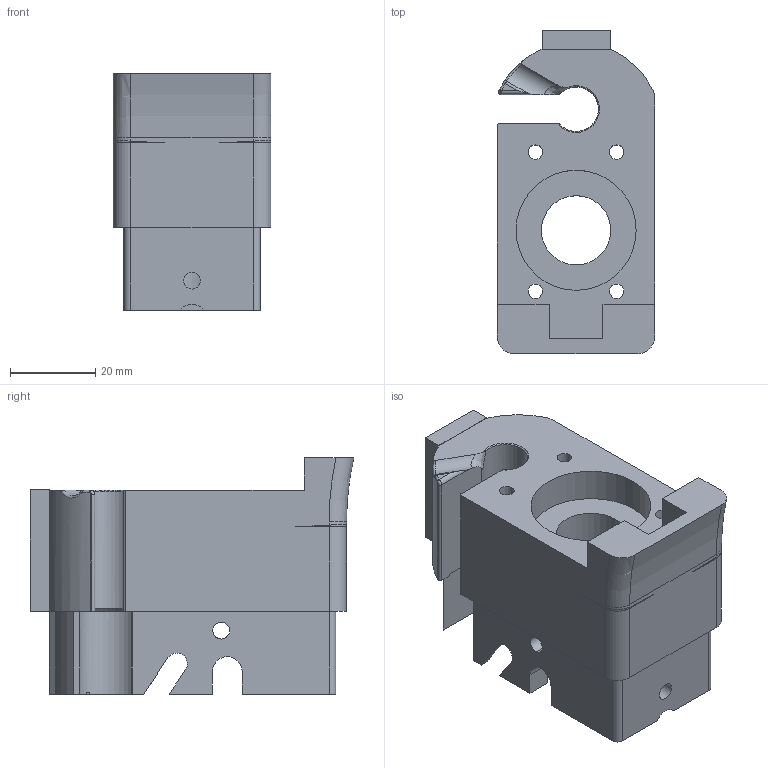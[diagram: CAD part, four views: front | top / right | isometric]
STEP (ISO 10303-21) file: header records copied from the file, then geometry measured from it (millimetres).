
FILE_DESCRIPTION(/* description */ (''),/* implementation_level */ '2;1');
FILE_NAME(/* name */ 'D:/Pew Pews/FGC-9_MkII_Stingray_Edition/Stingray Edition/.step files/1 - Upper/Barrel Retainer.step',/* time_stamp */ '2022-05-11T21:15:34-06:00',/* author */ (''),/* organization */ (''),/* preprocessor_version */ 'ST-DEVELOPER v18.1',/* originating_system */ 'Autodesk Translation Framework v10.10.0.1391',/* authorisation */ '');
FILE_SCHEMA (('AUTOMOTIVE_DESIGN { 1 0 10303 214 3 1 1 }'));
Length unit declared in the file: millimetre
Products named in the file (1): Barrel Retainer (1)
Bounding box: 37.08 x 76.18 x 55.65 mm (x, y, z)
Volume: 63265 mm3; surface area: 23350.8 mm2
Topology: 1 solids, 1 shells, 181 faces, 511 edges, 331 vertices
Faces by surface type: plane 95, cylinder 62, bspline 19, torus 4, cone 1
Full cylindrical faces by diameter (mm): 2.65 x1, 3 x1, 3.4 x4, 4 x4, 4.5 x1, 16.3 x1, 28.25 x1
Entity records: 6813 total; most frequent: CARTESIAN_POINT 2145, ORIENTED_EDGE 1006, DIRECTION 908, EDGE_CURVE 503, VERTEX_POINT 331, LINE 304, VECTOR 304, AXIS2_PLACEMENT_3D 302
